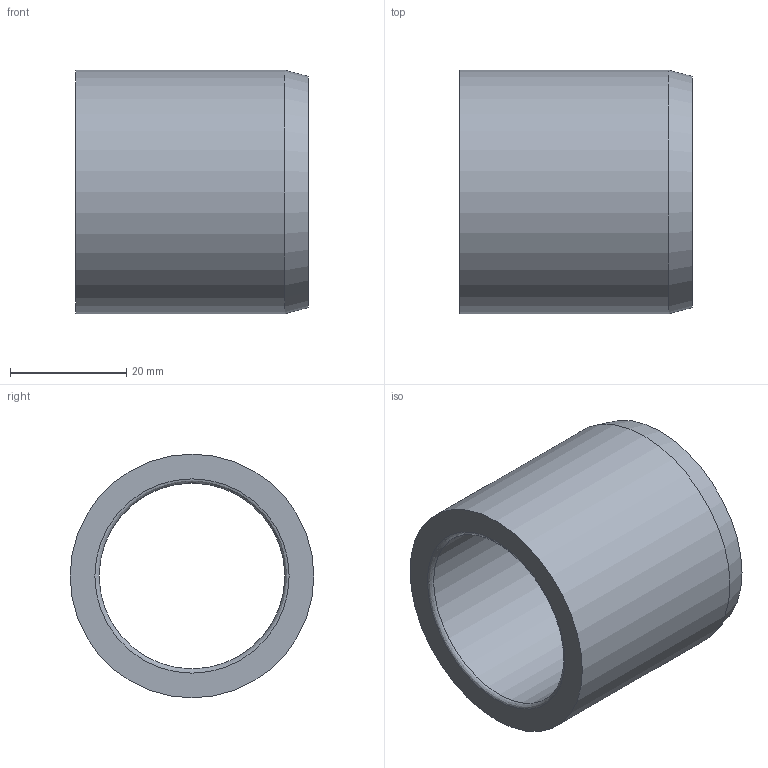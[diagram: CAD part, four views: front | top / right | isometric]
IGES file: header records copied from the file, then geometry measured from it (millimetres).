
Global section: file name: BG04.324240.ipt; native system: Autodesk Inventor 2021; preprocessor: unknown; author: SM; date: 20211217.163422; units: millimetre
Bounding box: 40 x 42 x 42 mm (x, y, z)
Volume: 22945.2 mm3; surface area: 10264.1 mm2
Topology: 1 solids, 1 shells, 7 faces, 18 edges, 13 vertices
Faces by surface type: revolution 3, plane 2, cylinder 1, cone 1
Full cylindrical faces by diameter (mm): 42 x1
